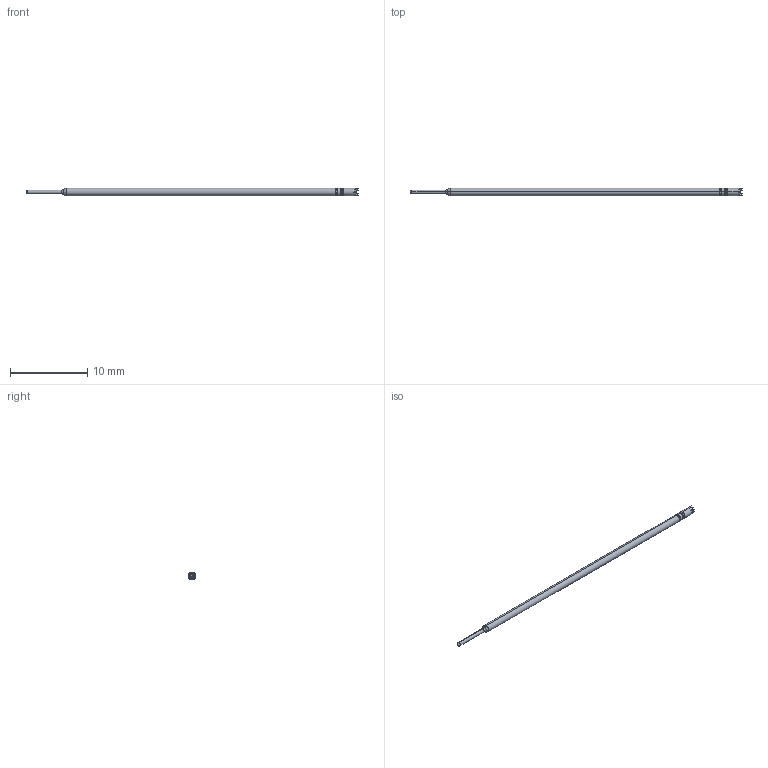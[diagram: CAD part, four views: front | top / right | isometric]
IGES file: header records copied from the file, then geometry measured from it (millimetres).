
Start section: SolidWorks IGES file using analytic representation for surfaces
Global section: file name: C:\Documents and Settings\mrumschlag\Desktop\changes\new\test\Z1 FULL.IGS; native system: SolidWorks 2011; preprocessor: SolidWorks 2011; author: mrumschlag; date: 110630.142321; units: inch
Bounding box: 42.93 x 0.97 x 0.97 mm (x, y, z)
Surface area: 125.2 mm2 (no closed solid volume)
Topology: 0 solids, 0 shells, 41 faces, 210 edges, 208 vertices
Faces by surface type: bspline 25, revolution 16
